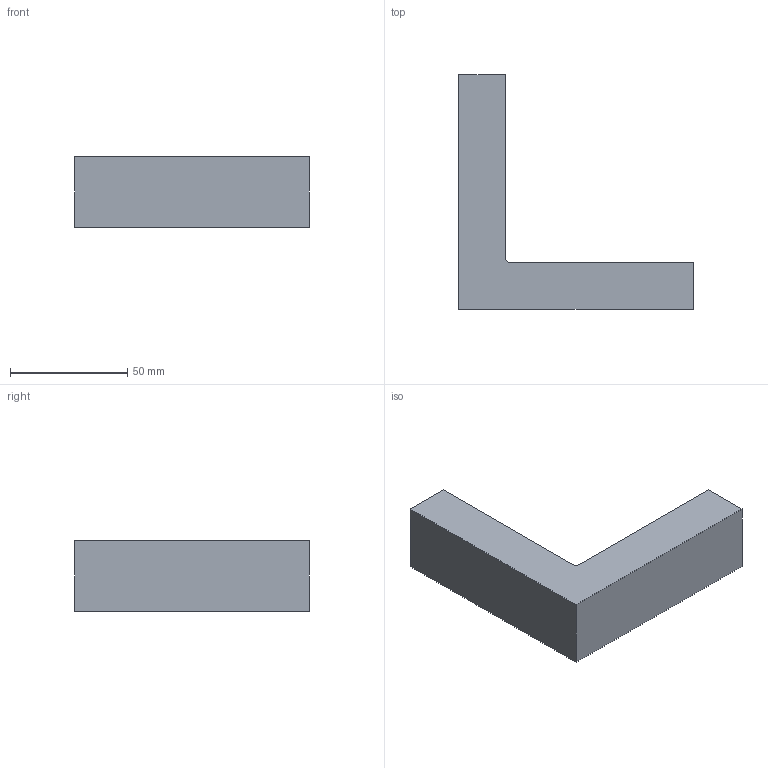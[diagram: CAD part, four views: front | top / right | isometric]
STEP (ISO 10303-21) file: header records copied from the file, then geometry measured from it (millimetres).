
FILE_DESCRIPTION (( 'STEP AP203' ), '1' );
FILE_NAME ('L BRACKET FILLET.STEP', '2023-01-14T16:21:10', ( '' ), ( '' ), 'SwSTEP 2.0', 'SolidWorks 2022', '' );
FILE_SCHEMA (( 'CONFIG_CONTROL_DESIGN' ));
Length unit declared in the file: millimetre
Products named in the file (1): L BRACKET FILLET
Bounding box: 100 x 100 x 30 mm (x, y, z)
Volume: 108025.8 mm3; surface area: 19176 mm2
Topology: 1 solids, 1 shells, 9 faces, 21 edges, 14 vertices
Faces by surface type: plane 8, cylinder 1
Entity records: 334 total; most frequent: CARTESIAN_POINT 45, DIRECTION 43, ORIENTED_EDGE 42, EDGE_CURVE 21, VECTOR 19, LINE 19, VERTEX_POINT 14, AXIS2_PLACEMENT_3D 12
